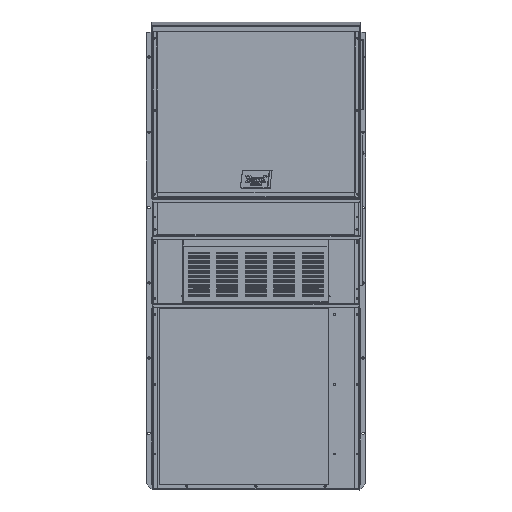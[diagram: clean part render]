
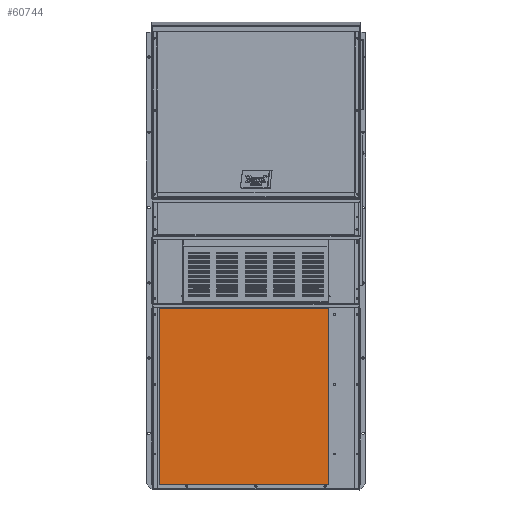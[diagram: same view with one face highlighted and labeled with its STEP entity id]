
A CAD part, top view. The second image highlights one B-rep face of the part: STEP entity #60744.
In plain terms, the highlighted planar face has unit normal (0, 0, 1) as drawn and (0, 0, -1) by its records, which use the part's own axes.
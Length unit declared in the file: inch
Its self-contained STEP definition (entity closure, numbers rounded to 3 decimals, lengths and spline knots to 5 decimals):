
#151 = CARTESIAN_POINT ( 'NONE',  ( -0.67998, 5.268, -0.038 ) ) ;
#653 = CARTESIAN_POINT ( 'NONE',  ( -0.67998, 32.271, -0.038 ) ) ;
#5821 = PLANE ( 'NONE',  #56319 ) ;
#7889 = VECTOR ( 'NONE', #56927, 39.37008 ) ;
#8080 = CARTESIAN_POINT ( 'NONE',  ( -28.74898, 32.271, -0.038 ) ) ;
#14482 = CARTESIAN_POINT ( 'NONE',  ( -0.67998, 5.268, -0.038 ) ) ;
#15184 = CARTESIAN_POINT ( 'NONE',  ( -28.74898, 32.271, -0.038 ) ) ;
#15773 = EDGE_CURVE ( 'NONE', #77272, #56955, #24861, .T. ) ;
#24540 = VECTOR ( 'NONE', #74776, 39.37008 ) ;
#24861 = LINE ( 'NONE', #8080, #7889 ) ;
#26987 = VERTEX_POINT ( 'NONE', #31701 ) ;
#31701 = CARTESIAN_POINT ( 'NONE',  ( -0.67998, 5.268, -0.038 ) ) ;
#31827 = EDGE_LOOP ( 'NONE', ( #70711, #76223, #106575, #38533 ) ) ;
#33226 = DIRECTION ( 'NONE',  ( -1., 0., 0. ) ) ;
#37315 = DIRECTION ( 'NONE',  ( 0., 0., -1. ) ) ;
#38533 = ORIENTED_EDGE ( 'NONE', *, *, #38758, .T. ) ;
#38758 = EDGE_CURVE ( 'NONE', #56955, #74568, #73727, .T. ) ;
#47035 = VECTOR ( 'NONE', #92312, 39.37008 ) ;
#50548 = LINE ( 'NONE', #653, #47035 ) ;
#52470 = CARTESIAN_POINT ( 'NONE',  ( -0.67998, 32.271, -0.038 ) ) ;
#54526 = EDGE_CURVE ( 'NONE', #26987, #77272, #99414, .T. ) ;
#56319 = AXIS2_PLACEMENT_3D ( 'NONE', #14482, #37315, #96423 ) ;
#56927 = DIRECTION ( 'NONE',  ( 0., 1., 0. ) ) ;
#56955 = VERTEX_POINT ( 'NONE', #15184 ) ;
#57724 = EDGE_CURVE ( 'NONE', #74568, #26987, #50548, .T. ) ;
#60744 = ADVANCED_FACE ( 'NONE', ( #104029 ), #5821, .T. ) ;
#63759 = VECTOR ( 'NONE', #33226, 39.37008 ) ;
#65002 = CARTESIAN_POINT ( 'NONE',  ( -0.67998, 32.271, -0.038 ) ) ;
#70711 = ORIENTED_EDGE ( 'NONE', *, *, #57724, .T. ) ;
#71374 = CARTESIAN_POINT ( 'NONE',  ( -28.74898, 5.268, -0.038 ) ) ;
#73727 = LINE ( 'NONE', #65002, #24540 ) ;
#74568 = VERTEX_POINT ( 'NONE', #52470 ) ;
#74776 = DIRECTION ( 'NONE',  ( 1., 0., 0. ) ) ;
#76223 = ORIENTED_EDGE ( 'NONE', *, *, #54526, .T. ) ;
#77272 = VERTEX_POINT ( 'NONE', #71374 ) ;
#92312 = DIRECTION ( 'NONE',  ( 0., -1., 0. ) ) ;
#96423 = DIRECTION ( 'NONE',  ( -1., 0., 0. ) ) ;
#99414 = LINE ( 'NONE', #151, #63759 ) ;
#104029 = FACE_OUTER_BOUND ( 'NONE', #31827, .T. ) ;
#106575 = ORIENTED_EDGE ( 'NONE', *, *, #15773, .T. ) ;
